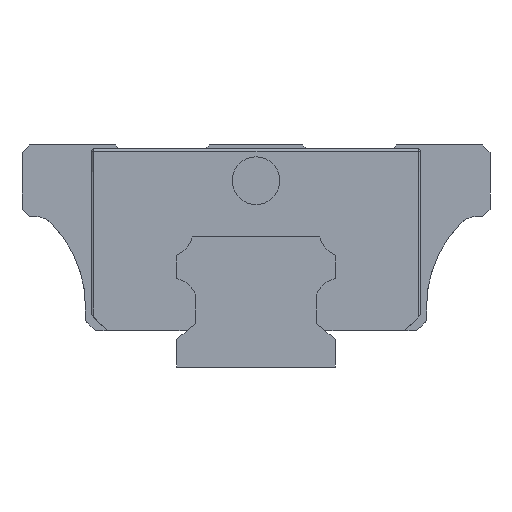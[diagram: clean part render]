
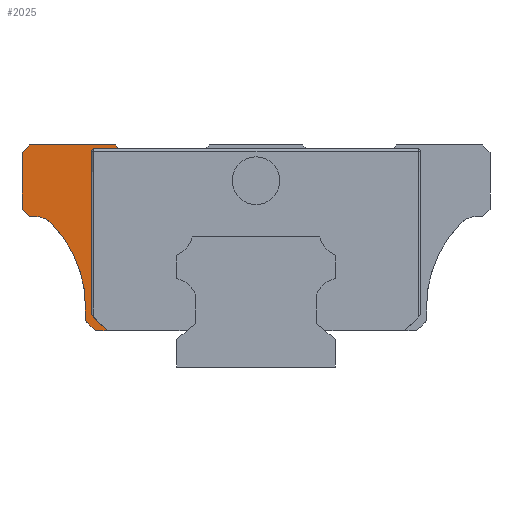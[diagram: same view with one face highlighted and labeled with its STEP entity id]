
A CAD part, left-side view. The second image highlights one B-rep face of the part: STEP entity #2025.
In plain terms, the highlighted planar face has unit normal (-1, 0, 0).
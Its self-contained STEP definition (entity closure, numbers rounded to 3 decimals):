
#97 = VECTOR ( 'NONE', #3434, 1000. ) ;
#103 = DIRECTION ( 'NONE',  ( 1., 0., 0. ) ) ;
#221 = EDGE_CURVE ( 'NONE', #5103, #3445, #1955, .T. ) ;
#340 = CARTESIAN_POINT ( 'NONE',  ( -13.9, 29.5, 19.9 ) ) ;
#398 = AXIS2_PLACEMENT_3D ( 'NONE', #6563, #2169, #930 ) ;
#492 = ORIENTED_EDGE ( 'NONE', *, *, #6323, .F. ) ;
#567 = CARTESIAN_POINT ( 'NONE',  ( -13.9, 18.752, 4.6 ) ) ;
#599 = CARTESIAN_POINT ( 'NONE',  ( -13.9, 21.5, 5.85 ) ) ;
#669 = ORIENTED_EDGE ( 'NONE', *, *, #7226, .T. ) ;
#849 = LINE ( 'NONE', #3073, #4294 ) ;
#930 = DIRECTION ( 'NONE',  ( 0., 0., 1. ) ) ;
#937 = CARTESIAN_POINT ( 'NONE',  ( -13.9, 28.6, 19. ) ) ;
#975 = VERTEX_POINT ( 'NONE', #599 ) ;
#1039 = VERTEX_POINT ( 'NONE', #6746 ) ;
#1314 = CARTESIAN_POINT ( 'NONE',  ( -13.9, 18.542, 4.6 ) ) ;
#1322 = LINE ( 'NONE', #4709, #5037 ) ;
#1410 = CARTESIAN_POINT ( 'NONE',  ( -13.9, 28.6, 19. ) ) ;
#1460 = DIRECTION ( 'NONE',  ( 0., -1., 0. ) ) ;
#1521 = ORIENTED_EDGE ( 'NONE', *, *, #3781, .T. ) ;
#1523 = ORIENTED_EDGE ( 'NONE', *, *, #4239, .T. ) ;
#1540 = CARTESIAN_POINT ( 'NONE',  ( -13.9, 25.788, 18.1 ) ) ;
#1708 = ORIENTED_EDGE ( 'NONE', *, *, #4813, .T. ) ;
#1714 = VECTOR ( 'NONE', #4703, 1000. ) ;
#1763 = VECTOR ( 'NONE', #3214, 1000. ) ;
#1809 = CARTESIAN_POINT ( 'NONE',  ( -13.9, 20.752, 26.875 ) ) ;
#1889 = EDGE_CURVE ( 'NONE', #6731, #7051, #849, .T. ) ;
#1896 = VERTEX_POINT ( 'NONE', #4764 ) ;
#1904 = CARTESIAN_POINT ( 'NONE',  ( -13.9, 36.5, 7.6 ) ) ;
#1929 = CIRCLE ( 'NONE', #398, 0.295 ) ;
#1955 = LINE ( 'NONE', #5782, #2494 ) ;
#1984 = ORIENTED_EDGE ( 'NONE', *, *, #3641, .T. ) ;
#2009 = LINE ( 'NONE', #340, #5434 ) ;
#2020 = CARTESIAN_POINT ( 'NONE',  ( -13.9, 17.7, 28. ) ) ;
#2025 = ADVANCED_FACE ( 'NONE', ( #2234 ), #6045, .T. ) ;
#2060 = ORIENTED_EDGE ( 'NONE', *, *, #5345, .T. ) ;
#2063 = ORIENTED_EDGE ( 'NONE', *, *, #2516, .T. ) ;
#2065 = DIRECTION ( 'NONE',  ( 1., 0., 0. ) ) ;
#2169 = DIRECTION ( 'NONE',  ( 1., 0., 0. ) ) ;
#2234 = FACE_OUTER_BOUND ( 'NONE', #6821, .T. ) ;
#2269 = DIRECTION ( 'NONE',  ( -1., 0., 0. ) ) ;
#2353 = CARTESIAN_POINT ( 'NONE',  ( -13.9, 27.93, 19. ) ) ;
#2474 = DIRECTION ( 'NONE',  ( 0., 1., 0. ) ) ;
#2494 = VECTOR ( 'NONE', #2474, 1000. ) ;
#2506 = CARTESIAN_POINT ( 'NONE',  ( -13.9, 27.93, 16. ) ) ;
#2516 = EDGE_CURVE ( 'NONE', #5103, #5477, #6255, .T. ) ;
#2541 = ORIENTED_EDGE ( 'NONE', *, *, #6519, .T. ) ;
#2844 = DIRECTION ( 'NONE',  ( 0., 0.643, 0.766 ) ) ;
#2907 = EDGE_CURVE ( 'NONE', #5524, #5249, #4311, .T. ) ;
#3014 = CARTESIAN_POINT ( 'NONE',  ( -13.9, 28.55, 28. ) ) ;
#3038 = DIRECTION ( 'NONE',  ( 0., -0.707, -0.707 ) ) ;
#3055 = VECTOR ( 'NONE', #4642, 1000. ) ;
#3073 = CARTESIAN_POINT ( 'NONE',  ( -13.9, 20.752, 6.6 ) ) ;
#3168 = VECTOR ( 'NONE', #3761, 1000. ) ;
#3214 = DIRECTION ( 'NONE',  ( 0., -0.707, -0.707 ) ) ;
#3224 = CARTESIAN_POINT ( 'NONE',  ( -13.9, 0., 17.29 ) ) ;
#3303 = ORIENTED_EDGE ( 'NONE', *, *, #6743, .T. ) ;
#3391 = CARTESIAN_POINT ( 'NONE',  ( -13.9, 29.5, 19.9 ) ) ;
#3434 = DIRECTION ( 'NONE',  ( 0., 0.707, -0.707 ) ) ;
#3445 = VERTEX_POINT ( 'NONE', #6470 ) ;
#3468 = LINE ( 'NONE', #1809, #3055 ) ;
#3527 = AXIS2_PLACEMENT_3D ( 'NONE', #1904, #103, #4599 ) ;
#3636 = VECTOR ( 'NONE', #1460, 1000. ) ;
#3641 = EDGE_CURVE ( 'NONE', #4156, #5524, #4026, .T. ) ;
#3642 = LINE ( 'NONE', #937, #3636 ) ;
#3761 = DIRECTION ( 'NONE',  ( 0., 0., -1. ) ) ;
#3781 = EDGE_CURVE ( 'NONE', #5935, #975, #1322, .T. ) ;
#3844 = ORIENTED_EDGE ( 'NONE', *, *, #6023, .T. ) ;
#3852 = DIRECTION ( 'NONE',  ( 0., 0., 1. ) ) ;
#3954 = CARTESIAN_POINT ( 'NONE',  ( -13.9, 28.55, 28. ) ) ;
#4026 = LINE ( 'NONE', #3954, #97 ) ;
#4083 = CARTESIAN_POINT ( 'NONE',  ( -13.9, 29.5, 27.05 ) ) ;
#4144 = ORIENTED_EDGE ( 'NONE', *, *, #2907, .T. ) ;
#4156 = VERTEX_POINT ( 'NONE', #3014 ) ;
#4239 = EDGE_CURVE ( 'NONE', #5477, #4156, #4776, .T. ) ;
#4294 = VECTOR ( 'NONE', #3038, 1000. ) ;
#4311 = LINE ( 'NONE', #5490, #3168 ) ;
#4319 = VERTEX_POINT ( 'NONE', #1540 ) ;
#4572 = CARTESIAN_POINT ( 'NONE',  ( -13.9, 17.228, 27.438 ) ) ;
#4599 = DIRECTION ( 'NONE',  ( 0., 0., 1. ) ) ;
#4604 = AXIS2_PLACEMENT_3D ( 'NONE', #3224, #2269, #3852 ) ;
#4631 = CARTESIAN_POINT ( 'NONE',  ( -13.9, 17.7, 28. ) ) ;
#4642 = DIRECTION ( 'NONE',  ( 0., 0., -1. ) ) ;
#4703 = DIRECTION ( 'NONE',  ( 0., 1., 0. ) ) ;
#4709 = CARTESIAN_POINT ( 'NONE',  ( -13.9, 21.5, 7.6 ) ) ;
#4715 = LINE ( 'NONE', #4788, #1763 ) ;
#4764 = CARTESIAN_POINT ( 'NONE',  ( -13.9, 20.752, 27.205 ) ) ;
#4776 = LINE ( 'NONE', #2020, #1714 ) ;
#4788 = CARTESIAN_POINT ( 'NONE',  ( -13.9, 21.5, 5.85 ) ) ;
#4813 = EDGE_CURVE ( 'NONE', #1896, #3445, #1929, .T. ) ;
#4854 = DIRECTION ( 'NONE',  ( 0., 0., 1. ) ) ;
#5037 = VECTOR ( 'NONE', #6355, 1000. ) ;
#5047 = CARTESIAN_POINT ( 'NONE',  ( -13.9, 17.28, 27.5 ) ) ;
#5103 = VERTEX_POINT ( 'NONE', #5047 ) ;
#5173 = AXIS2_PLACEMENT_3D ( 'NONE', #2506, #2065, #4854 ) ;
#5249 = VERTEX_POINT ( 'NONE', #3391 ) ;
#5345 = EDGE_CURVE ( 'NONE', #1039, #7051, #6421, .T. ) ;
#5434 = VECTOR ( 'NONE', #6478, 1000. ) ;
#5477 = VERTEX_POINT ( 'NONE', #4631 ) ;
#5490 = CARTESIAN_POINT ( 'NONE',  ( -13.9, 29.5, 28. ) ) ;
#5524 = VERTEX_POINT ( 'NONE', #4083 ) ;
#5660 = CARTESIAN_POINT ( 'NONE',  ( -13.9, 21.5, 7.6 ) ) ;
#5672 = CARTESIAN_POINT ( 'NONE',  ( -13.9, 20.752, 6.6 ) ) ;
#5686 = VECTOR ( 'NONE', #2844, 1000. ) ;
#5706 = VECTOR ( 'NONE', #5808, 1000. ) ;
#5724 = ORIENTED_EDGE ( 'NONE', *, *, #1889, .F. ) ;
#5782 = CARTESIAN_POINT ( 'NONE',  ( -13.9, -20.542, 27.5 ) ) ;
#5808 = DIRECTION ( 'NONE',  ( 0., -1., 0. ) ) ;
#5935 = VERTEX_POINT ( 'NONE', #5660 ) ;
#5978 = VERTEX_POINT ( 'NONE', #2353 ) ;
#6023 = EDGE_CURVE ( 'NONE', #975, #1039, #4715, .T. ) ;
#6045 = PLANE ( 'NONE',  #4604 ) ;
#6113 = ORIENTED_EDGE ( 'NONE', *, *, #221, .F. ) ;
#6255 = LINE ( 'NONE', #4572, #5686 ) ;
#6323 = EDGE_CURVE ( 'NONE', #1896, #6731, #3468, .T. ) ;
#6355 = DIRECTION ( 'NONE',  ( 0., 0., -1. ) ) ;
#6421 = LINE ( 'NONE', #1314, #5706 ) ;
#6470 = CARTESIAN_POINT ( 'NONE',  ( -13.9, 20.457, 27.5 ) ) ;
#6478 = DIRECTION ( 'NONE',  ( 0., -0.707, -0.707 ) ) ;
#6519 = EDGE_CURVE ( 'NONE', #5978, #4319, #6683, .T. ) ;
#6563 = CARTESIAN_POINT ( 'NONE',  ( -13.9, 20.457, 27.205 ) ) ;
#6669 = ORIENTED_EDGE ( 'NONE', *, *, #6925, .T. ) ;
#6683 = CIRCLE ( 'NONE', #5173, 3. ) ;
#6688 = CIRCLE ( 'NONE', #3527, 15. ) ;
#6731 = VERTEX_POINT ( 'NONE', #5672 ) ;
#6743 = EDGE_CURVE ( 'NONE', #4319, #5935, #6688, .T. ) ;
#6746 = CARTESIAN_POINT ( 'NONE',  ( -13.9, 20.25, 4.6 ) ) ;
#6821 = EDGE_LOOP ( 'NONE', ( #669, #6669, #2541, #3303, #1521, #3844, #2060, #5724, #492, #1708, #6113, #2063, #1523, #1984, #4144 ) ) ;
#6925 = EDGE_CURVE ( 'NONE', #7219, #5978, #3642, .T. ) ;
#7051 = VERTEX_POINT ( 'NONE', #567 ) ;
#7219 = VERTEX_POINT ( 'NONE', #1410 ) ;
#7226 = EDGE_CURVE ( 'NONE', #5249, #7219, #2009, .T. ) ;
